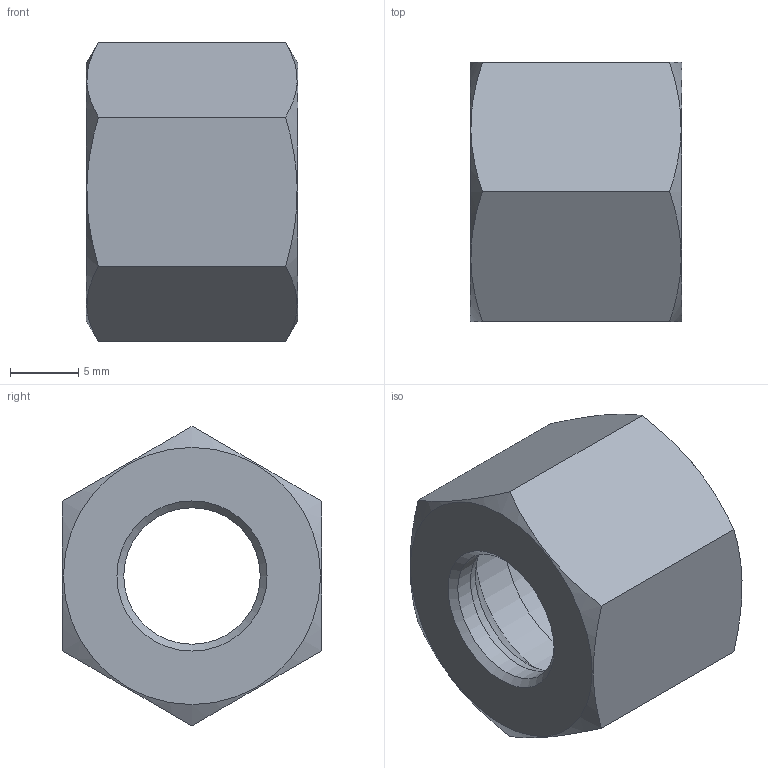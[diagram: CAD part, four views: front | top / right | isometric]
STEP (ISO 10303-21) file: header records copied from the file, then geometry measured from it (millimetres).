
FILE_DESCRIPTION( ( 'Unknown' ), '1' );
FILE_NAME( 'C:/Users/p.nanko/Desktop/3D SR/M10L.stp', 'Unknown', ( 'Peter Nanko' ), ( 'Armaturen Arndt' ), 'PSStep 14.0', 'Solid Edge ST4', ' ' );
FILE_SCHEMA( ( 'AUTOMOTIVE_DESIGN { 1 0 10303 214 1 1 1 1 }' ) );
Length unit declared in the file: millimetre
Products named in the file (1): 1
Bounding box: 15.5 x 19 x 21.94 mm (x, y, z)
Volume: 2590.3 mm3; surface area: 2034.9 mm2
Topology: 1 solids, 1 shells, 17 faces, 39 edges, 24 vertices
Faces by surface type: plane 8, cone 6, cylinder 3
Full cylindrical faces by diameter (mm): 10 x1, 14.376 x2
Entity records: 676 total; most frequent: CARTESIAN_POINT 200, DIRECTION 62, ORIENTED_EDGE 56, AXIS2_PLACEMENT_3D 28, EDGE_LOOP 28, EDGE_CURVE 28, VERTEX_POINT 22, FACE_OUTER_BOUND 20
